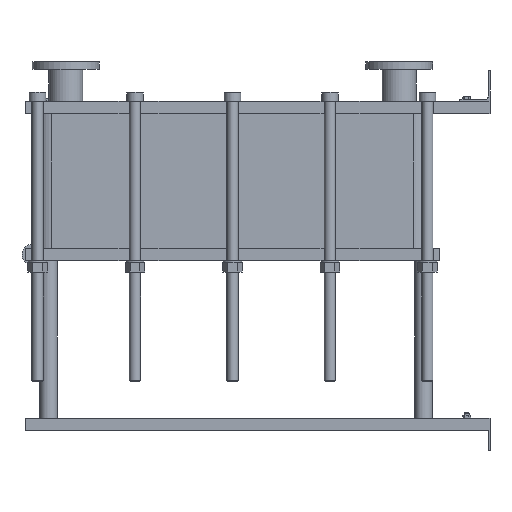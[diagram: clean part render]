
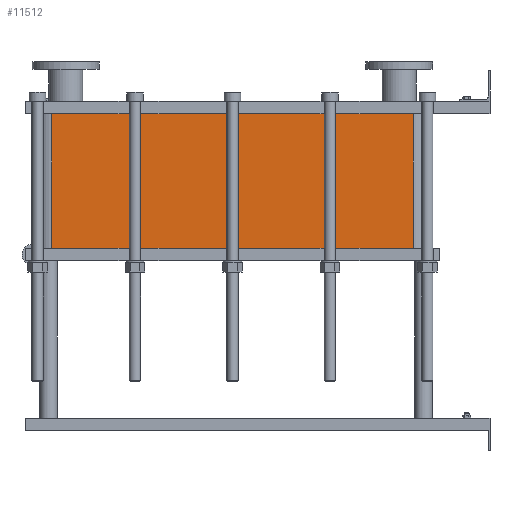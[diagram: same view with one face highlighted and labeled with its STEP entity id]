
A CAD part, left-side view. The second image highlights one B-rep face of the part: STEP entity #11512.
In plain terms, the highlighted planar face has unit normal (-1, 0, 0).
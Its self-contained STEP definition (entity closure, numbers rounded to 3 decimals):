
#1129=LINE('',#23232,#2102);
#1130=LINE('',#23236,#2103);
#1131=LINE('',#23238,#2104);
#1132=LINE('',#23239,#2105);
#2102=VECTOR('',#15887,10.);
#2103=VECTOR('',#15892,10.);
#2104=VECTOR('',#15893,10.);
#2105=VECTOR('',#15894,10.);
#3267=FACE_OUTER_BOUND('',#4093,.T.);
#4093=EDGE_LOOP('',(#10103,#10104,#10105,#10106));
#5642=VERTEX_POINT('',#23229);
#5643=VERTEX_POINT('',#23231);
#5644=VERTEX_POINT('',#23235);
#5645=VERTEX_POINT('',#23237);
#7159=EDGE_CURVE('',#5643,#5642,#1129,.T.);
#7161=EDGE_CURVE('',#5642,#5644,#1130,.T.);
#7162=EDGE_CURVE('',#5645,#5644,#1131,.T.);
#7163=EDGE_CURVE('',#5645,#5643,#1132,.T.);
#10103=ORIENTED_EDGE('',*,*,#7161,.T.);
#10104=ORIENTED_EDGE('',*,*,#7162,.F.);
#10105=ORIENTED_EDGE('',*,*,#7163,.T.);
#10106=ORIENTED_EDGE('',*,*,#7159,.T.);
#10857=PLANE('',#12751);
#11512=ADVANCED_FACE('',(#3267),#10857,.T.);
#12751=AXIS2_PLACEMENT_3D('',#23234,#15890,#15891);
#15887=DIRECTION('',(0.,0.,-1.));
#15890=DIRECTION('center_axis',(-1.,0.,0.));
#15891=DIRECTION('ref_axis',(0.,1.,0.));
#15892=DIRECTION('',(0.,-1.,0.));
#15893=DIRECTION('',(0.,0.,-1.));
#15894=DIRECTION('',(0.,1.,0.));
#23229=CARTESIAN_POINT('',(-200.,1414.,-434.7));
#23231=CARTESIAN_POINT('',(-200.,1414.,0.));
#23232=CARTESIAN_POINT('',(-200.,1414.,0.));
#23234=CARTESIAN_POINT('Origin',(-200.,248.,0.));
#23235=CARTESIAN_POINT('',(-200.,248.,-434.7));
#23236=CARTESIAN_POINT('',(-200.,539.5,-434.7));
#23237=CARTESIAN_POINT('',(-200.,248.,0.));
#23238=CARTESIAN_POINT('',(-200.,248.,0.));
#23239=CARTESIAN_POINT('',(-200.,248.,0.));
